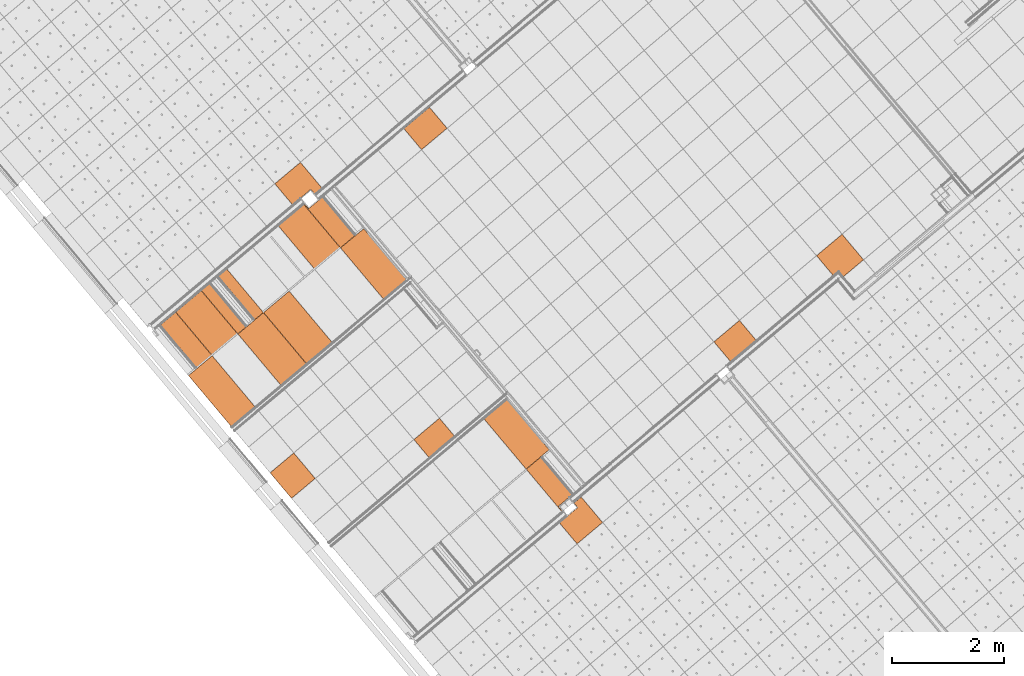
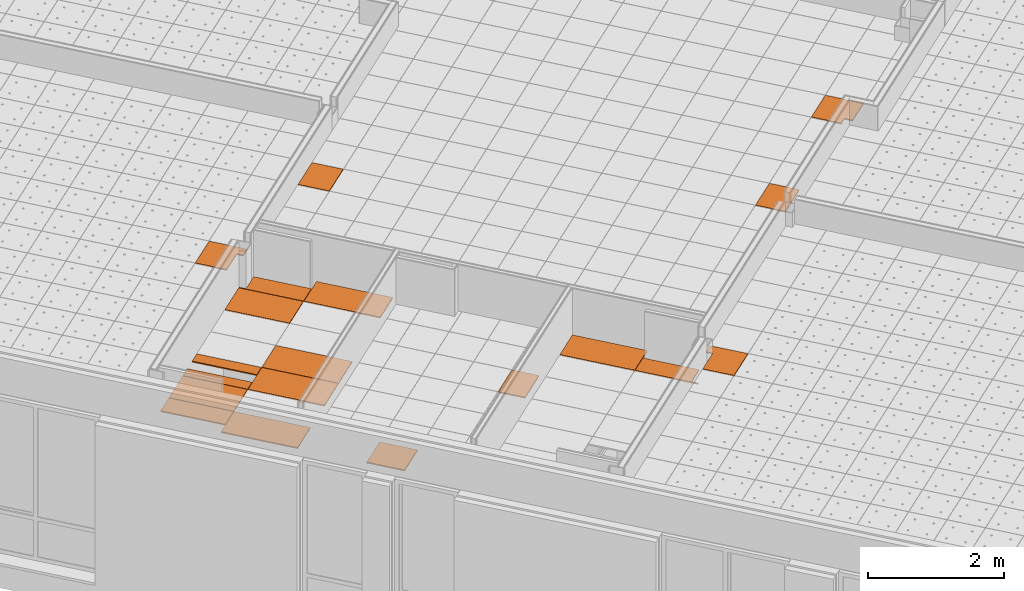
# One storey, part 312 of 338: 19 proxies, 6 elements without a shape of their own.
"""IFC2X3 building model written with IfcOpenShell, lengths in millimetres."""

import ifcopenshell
import ifcopenshell.guid

model = None  # the IFC model being written
_history = None  # IfcOwnerHistory: only IFC2X3 demands one
_inside = {}  # id of a spatial element -> (the spatial element, [elements in it])
_under = {}  # id of a project, library or spatial element -> (it, [spatial elements below it])
_declared = {}  # id of a project -> (the project, [libraries it declares])
_typed = {}  # id of a type object -> (the type object, [elements of that type])
_made_of = {}  # id of a material, layer set ... -> (it, [elements and type objects made of it])


def new_model(schema):
    """Start an empty IFC model of exactly this schema.

    Asked for "IFC4X3", IfcOpenShell would pick the latest addendum, in which some entities
    have other attributes; the version numbers below select the first issue.
    IFC2X3 requires an IfcOwnerHistory on every rooted entity: one is made here for all.
    """
    global model, _history
    if schema == "IFC4X3":
        model = ifcopenshell.file(schema_version=(4, 3, 0, 0))
    else:
        model = ifcopenshell.file(schema=schema)
    _inside.clear()
    _under.clear()
    _declared.clear()
    _typed.clear()
    _made_of.clear()
    _history = None
    if model.schema == "IFC2X3":
        org = make("IfcOrganization", Name="unknown")
        user = make(
            "IfcPersonAndOrganization",
            ThePerson=make("IfcPerson", FamilyName="unknown"),
            TheOrganization=org,
        )
        app = make(
            "IfcApplication",
            ApplicationDeveloper=org,
            Version="unknown",
            ApplicationFullName="unknown",
            ApplicationIdentifier="unknown",
        )
        _history = make(
            "IfcOwnerHistory",
            OwningUser=user,
            OwningApplication=app,
            ChangeAction="ADDED",
            CreationDate=0,
        )
    return model


def make(cls, **values):
    """One entity of the class cls with the attributes given. An attribute that is None is left unset."""
    return model.create_entity(
        cls, **{name: value for name, value in values.items() if value is not None}
    )


def entity(cls, *values):
    """Any entity or typed value of the class cls, its attributes in the order of the schema. None: left unset."""
    e = model.create_entity(cls)
    for i, value in enumerate(values):
        if value is not None:
            e[i] = value
    return e


def rooted(cls, **values):
    """An entity with a GlobalId (a new one), such as an element, a storey or a relation."""
    return make(cls, GlobalId=ifcopenshell.guid.new(), OwnerHistory=_history, **values)


def si_unit(unit_type, name, prefix=None):
    """IfcSIUnit, for example si_unit("LENGTHUNIT", "METRE", prefix="MILLI")."""
    return make("IfcSIUnit", UnitType=unit_type, Prefix=prefix, Name=name)


def converted_unit(unit_type, name, factor, base, dimensions=None, offset=None):
    """IfcConversionBasedUnit, such as the inch: factor (a typed value) times the base unit."""
    return make(
        "IfcConversionBasedUnit"
        if offset is None
        else "IfcConversionBasedUnitWithOffset",
        ConversionOffset=offset,
        Dimensions=None
        if dimensions is None
        else entity("IfcDimensionalExponents", *dimensions),
        UnitType=unit_type,
        Name=name,
        ConversionFactor=make(
            "IfcMeasureWithUnit", ValueComponent=factor, UnitComponent=base
        ),
    )


def derived_unit(unit_type, elements):
    """IfcDerivedUnit: a product of units, each with its exponent."""
    return make(
        "IfcDerivedUnit",
        Elements=[
            make("IfcDerivedUnitElement", Unit=unit, Exponent=power)
            for unit, power in elements
        ],
        UnitType=unit_type,
    )


def money_unit(currency):
    """IfcMonetaryUnit."""
    return make("IfcMonetaryUnit", Currency=currency)


def assignment(units):
    """IfcUnitAssignment: the units of a project."""
    return None if units is None else make("IfcUnitAssignment", Units=units)


def point(xyz):
    """IfcCartesianPoint."""
    return None if xyz is None else make("IfcCartesianPoint", Coordinates=xyz)


def direction(xyz):
    """IfcDirection."""
    return None if xyz is None else make("IfcDirection", DirectionRatios=xyz)


def frame(location, z_axis=None, x_axis=None):
    """IfcAxis2Placement3D, a coordinate frame: its origin and axes. An axis left out is left unset."""
    return make(
        "IfcAxis2Placement3D",
        Location=point(location),
        Axis=direction(z_axis),
        RefDirection=direction(x_axis),
    )


def origin_with_axes():
    """The frame at (0, 0, 0) with the z axis (0, 0, 1) and the x axis (1, 0, 0) written out."""
    return frame((0.0, 0.0, 0.0), z_axis=(0.0, 0.0, 1.0), x_axis=(1.0, 0.0, 0.0))


def place(relative_to, where):
    """IfcLocalPlacement: puts the frame where relative to a parent placement (None: the world)."""
    return make(
        "IfcLocalPlacement", PlacementRelTo=relative_to, RelativePlacement=where
    )


def context(
    kind, dimensions, precision=None, world=None, true_north=None, identifier=None
):
    """IfcGeometricRepresentationContext, for example the 3D "Model" context."""
    return make(
        "IfcGeometricRepresentationContext",
        ContextIdentifier=identifier,
        ContextType=kind,
        CoordinateSpaceDimension=dimensions,
        Precision=precision,
        WorldCoordinateSystem=world,
        TrueNorth=true_north,
    )


def subcontext(parent, identifier, kind, view, scale=None):
    """IfcGeometricRepresentationSubContext, for example "Body" below "Model"."""
    return make(
        "IfcGeometricRepresentationSubContext",
        ContextIdentifier=identifier,
        ContextType=kind,
        ParentContext=parent,
        TargetScale=scale,
        TargetView=view,
    )


def project(units=None, contexts=None):
    """IfcProject with its units and contexts."""
    return rooted(
        "IfcProject",
        Name="project",
        RepresentationContexts=contexts,
        UnitsInContext=assignment(units),
    )


def spatial(cls, under=None, at=None, **own):
    """A site, building, storey or space (cls), placed at a placement, below another one or the project."""
    s = rooted(cls, ObjectPlacement=at, **own)
    if under is not None:
        _under.setdefault(under.id(), (under, []))[1].append(s)
    return s


def faces_of(points, faces, orient=None, outer=None):
    """IfcFace entities. A face is a list of loops; a loop is a list of indices into points, from 0.

    orient and outer hold one flag for each loop. By default every Orientation is true, the
    first loop of a face is its IfcFaceOuterBound and the others are IfcFaceBound.
    """
    made = []
    for i, loops in enumerate(faces):
        bounds = []
        for j, loop in enumerate(loops):
            is_outer = j == 0 if outer is None else outer[i][j]
            bounds.append(
                make(
                    "IfcFaceOuterBound" if is_outer else "IfcFaceBound",
                    Bound=make("IfcPolyLoop", Polygon=[points[k] for k in loop]),
                    Orientation=True if orient is None else orient[i][j],
                )
            )
        made.append(make("IfcFace", Bounds=bounds))
    return made


def faceted_brep(points, faces, orient=None, outer=None, voids=None):
    """IfcFacetedBrep: a solid bounded by flat faces; with voids (closed shells), ...WithVoids."""
    shared = [point(p) for p in points]
    hull = make("IfcClosedShell", CfsFaces=faces_of(shared, faces, orient, outer))
    if voids is None:
        return make("IfcFacetedBrep", Outer=hull)
    return make(
        "IfcFacetedBrepWithVoids",
        Outer=hull,
        Voids=[
            make(cls, CfsFaces=faces_of(shared, fs, o, b)) for cls, fs, o, b in voids
        ],
    )


def shape(context_of_items, identifier, shape_type, items):
    """IfcShapeRepresentation: the items that make up one representation, for example the "Body"."""
    return make(
        "IfcShapeRepresentation",
        ContextOfItems=context_of_items,
        RepresentationIdentifier=identifier,
        RepresentationType=shape_type,
        Items=items,
    )


def material(Name=None, Category=None):
    """IfcMaterial."""
    return make("IfcMaterial", Name=Name, Category=Category)


def made_of(thing, what):
    """Note that an element or type object is made of a material, layer set ...; save() writes the relation."""
    if what is not None:
        _made_of.setdefault(what.id(), (what, []))[1].append(thing)
    return thing


def type_object(cls, material=None, **own):
    """A type object (cls), such as IfcWallType, which elements share."""
    return made_of(rooted(cls, **own), material)


def element(
    cls,
    number,
    at=None,
    inside=None,
    cuts=None,
    type_object=None,
    material=None,
    context=None,
    identifier="Body",
    shape_type=None,
    held_by="IfcProductDefinitionShape",
    body=None,
    shapes=None,
    **own,
):
    """One element of the class cls, such as IfcWall. Its Tag is "e" and its number.

    at: its placement. inside: the storey or other place that contains it. cuts: it is an
    opening in that element (IfcRelVoidsElement). A single representation is given by context,
    identifier, shape_type and body (its items); several are given by shapes. held_by: the class
    of the entity that holds the representations. save() writes the other relations.
    """
    e = rooted(cls, Tag="e%d" % number, ObjectPlacement=at, **own)
    if body is not None:
        shapes = [shape(context, identifier, shape_type, body)]
    if shapes is not None:
        e.Representation = make(held_by, Representations=shapes)
    if inside is not None:
        _inside.setdefault(inside.id(), (inside, []))[1].append(e)
    if cuts is not None:
        rooted(
            "IfcRelVoidsElement", RelatingBuildingElement=cuts, RelatedOpeningElement=e
        )
    if type_object is not None:
        _typed.setdefault(type_object.id(), (type_object, []))[1].append(e)
    return made_of(e, material)


def aggregate(whole, parts):
    """IfcRelAggregates: a whole, such as a stair, and the parts it consists of."""
    return rooted("IfcRelAggregates", RelatingObject=whole, RelatedObjects=parts)


def save(model, path):
    """Write the relations noted so far, then the file.

    IfcRelAggregates (storeys below a building ...), IfcRelContainedInSpatialStructure (elements
    in a storey), IfcRelDefinesByType, IfcRelAssociatesMaterial and IfcRelDeclares: one each for
    every whole, place, type object, material and project.
    """
    for whole, parts in _under.values():
        aggregate(whole, parts)
    for where, things in _inside.values():
        rooted(
            "IfcRelContainedInSpatialStructure",
            RelatedElements=things,
            RelatingStructure=where,
        )
    for kind, things in _typed.values():
        rooted("IfcRelDefinesByType", RelatedObjects=things, RelatingType=kind)
    for what, things in _made_of.values():
        rooted("IfcRelAssociatesMaterial", RelatedObjects=things, RelatingMaterial=what)
    for by, libraries in _declared.values():
        rooted("IfcRelDeclares", RelatingContext=by, RelatedDefinitions=libraries)
    model.write(path)


model = new_model("IFC2X3")

# Units and contexts
model_context = context("Model", 3, precision=0.01, world=origin_with_axes(), true_north=direction((0.0, 1.0)))
plan_context = context("Plan", 3, precision=0.01, world=origin_with_axes(), true_north=direction((0.0, 1.0)))
body_context = subcontext(model_context, "Body", "Model", "MODEL_VIEW")
ifc_project = project(units=[si_unit("LENGTHUNIT", "METRE", prefix="MILLI"), si_unit("AREAUNIT", "SQUARE_METRE"), si_unit("VOLUMEUNIT", "CUBIC_METRE"), converted_unit("PLANEANGLEUNIT", "DEGREE", entity("IfcPlaneAngleMeasure", 0.0174532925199), si_unit("PLANEANGLEUNIT", "RADIAN"), dimensions=[0, 0, 0, 0, 0, 0, 0]), money_unit("EUR"), converted_unit("TIMEUNIT", "Year", entity("IfcTimeMeasure", 31556926.0), si_unit("TIMEUNIT", "SECOND"), dimensions=[0, 0, 1, 0, 0, 0, 0]), si_unit("MASSUNIT", "GRAM", prefix="KILO"), si_unit("THERMODYNAMICTEMPERATUREUNIT", "DEGREE_CELSIUS"), si_unit("LUMINOUSINTENSITYUNIT", "LUMEN"), si_unit("ENERGYUNIT", "JOULE", prefix="MEGA"), derived_unit("THERMALCONDUCTANCEUNIT", [(si_unit("POWERUNIT", "WATT"), 1), (si_unit("LENGTHUNIT", "METRE"), -1), (si_unit("THERMODYNAMICTEMPERATUREUNIT", "KELVIN"), -1)]), derived_unit("SPECIFICHEATCAPACITYUNIT", [(si_unit("ENERGYUNIT", "JOULE"), 1), (si_unit("MASSUNIT", "GRAM", prefix="KILO"), -1), (si_unit("THERMODYNAMICTEMPERATUREUNIT", "KELVIN"), -1)]), derived_unit("MASSDENSITYUNIT", [(si_unit("MASSUNIT", "GRAM", prefix="KILO"), 1), (si_unit("VOLUMEUNIT", "CUBIC_METRE"), -1)])], contexts=[model_context, plan_context])

# Site, building, storey
site_placement = place(None, origin_with_axes())
site = spatial("IfcSite", under=ifc_project, at=site_placement, Name="Fortuinstraat Woensdrecht", CompositionType="ELEMENT")
building_placement = place(site_placement, origin_with_axes())
building = spatial("IfcBuilding", under=site, at=building_placement, Name="IKC Fortuna", CompositionType="ELEMENT")
storey_placement = place(building_placement, origin_with_axes())
storey = spatial("IfcBuildingStorey", under=building, at=storey_placement, Name="00 begane grond", CompositionType="ELEMENT", Elevation=0.0)

# Covering, proxies
covering_type = type_object("IfcCoveringType", Name="Curtain Wall Type", PredefinedType="CEILING")
covering_1_placement = place(storey_placement, frame((17937.1227498, -4186.27868692, 4660.0), z_axis=(0.0, 0.0, 1.0), x_axis=(1.0, 0.0, 0.0)))
covering_1 = element("IfcCovering", 1, at=covering_1_placement, inside=storey, type_object=covering_type, Name="45_Plafondafwerking_P02", PredefinedType="CEILING")
ifc_material = material(Name="Gipsplaat")
building_element_proxy_type_1 = type_object("IfcBuildingElementProxyType", Name="Distinct Panel 600 x 495 x 20", PredefinedType="NOTDEFINED")
proxy_1_placement = place(covering_1_placement, frame((-8181.34846103, 2282.67428428, 2.18491891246e-10), z_axis=(0.0, 0.0, 1.0), x_axis=(1.0, 0.0, 0.0)))
proxy_1 = element("IfcBuildingElementProxy", 2, at=proxy_1_placement, type_object=building_element_proxy_type_1, material=ifc_material, Name="__Panel-D", context=body_context, shape_type="Brep", body=[
    faceted_brep([(70.3275065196, 379.014680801, -10.0), (-385.468925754, -3.44394843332, -10.0), (-385.468925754, -3.44394843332, 9.99999999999), (70.3275065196, 379.014680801, 9.99999999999), (385.468892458, 3.44401273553, -10.0), (-70.3274819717, -379.014732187, -10.0), (-70.3274819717, -379.014732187, 9.99999999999), (385.468892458, 3.44401273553, 9.99999999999)], [[[0, 1, 2, 3]], [[0, 4, 5, 1]], [[1, 5, 6, 2]], [[3, 2, 6, 7]], [[4, 0, 3, 7]], [[5, 4, 7, 6]]]),
])
building_element_proxy_type_2 = type_object("IfcBuildingElementProxyType", Name="Distinct Panel 600 x 470 x 20", PredefinedType="NOTDEFINED")
proxy_2_placement = place(covering_1_placement, frame((-762.454886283, -113.319990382, 0.0), z_axis=(0.0, 0.0, 1.0), x_axis=(1.0, 0.0, 0.0)))
proxy_2 = element("IfcBuildingElementProxy", 3, at=proxy_2_placement, type_object=building_element_proxy_type_2, material=ifc_material, Name="__Panel-D", context=body_context, shape_type="Brep", body=[
    faceted_brep([(43.902049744, 499.051159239, -10.0), (-411.894293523, 116.592422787, -10.0), (-411.894293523, 116.592422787, 9.99999999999), (43.902049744, 499.051159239, 9.99999999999), (426.360798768, 43.2548159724, -10.0), (69.5797071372, -256.120217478, -10.0), (-14.15834367, -156.32514941, -10.0), (-113.173607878, -239.408852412, -10.0), (-113.173607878, -239.408852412, 9.99999999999), (-14.15834367, -156.32514941, 9.99999999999), (69.5797071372, -256.120217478, 9.99999999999), (426.360798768, 43.2548159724, 9.99999999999)], [[[0, 1, 2, 3]], [[0, 4, 5, 6, 7, 1]], [[1, 7, 8, 2]], [[3, 2, 8, 9, 10, 11]], [[4, 0, 3, 11]], [[5, 4, 11, 10]], [[6, 5, 10, 9]], [[7, 6, 9, 8]]]),
])
proxy_3_placement = place(covering_1_placement, frame((-2635.59693759, -1526.18956891, 1.58983937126e-10), z_axis=(0.0, 0.0, 1.0), x_axis=(1.0, 0.0, 0.0)))
proxy_3 = element("IfcBuildingElementProxy", 4, at=proxy_3_placement, type_object=building_element_proxy_type_2, material=ifc_material, Name="__Panel-D", context=body_context, shape_type="Brep", body=[
    faceted_brep([(78.5378299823, 369.230019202, -10.0), (-377.258515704, -13.228729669, -10.0), (-377.258515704, -13.228729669, 9.99999999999), (78.5378299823, 369.230019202, 9.99999999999), (377.258531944, 13.2287273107, -10.0), (-78.537836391, -369.230010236, -10.0), (-78.537836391, -369.230010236, 9.99999999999), (377.258531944, 13.2287273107, 9.99999999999)], [[[0, 1, 2, 3]], [[0, 4, 5, 1]], [[1, 5, 6, 2]], [[3, 2, 6, 7]], [[4, 0, 3, 7]], [[5, 4, 7, 6]]]),
])
aggregate(covering_1, [proxy_1, proxy_2, proxy_3])

covering_2_placement = place(storey_placement, frame((12053.0472686, -8408.71417201, 4260.0), z_axis=(0.0, 0.0, 1.0), x_axis=(1.0, 0.0, 0.0)))
covering_2 = element("IfcCovering", 5, at=covering_2_placement, inside=storey, type_object=covering_type, Name="45_Plafondafwerking_P02a", PredefinedType="CEILING")
building_element_proxy_type_3 = type_object("IfcBuildingElementProxyType", Name="Distinct Panel 322 x 883 x 20", PredefinedType="NOTDEFINED")
proxy_4_placement = place(covering_2_placement, frame((0.0, 0.0, 1.20792265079e-10), z_axis=(0.0, 0.0, 1.0), x_axis=(1.0, 0.0, 0.0)))
proxy_4 = element("IfcBuildingElementProxy", 6, at=proxy_4_placement, type_object=building_element_proxy_type_3, material=ifc_material, Name="__Panel-D", context=body_context, shape_type="Brep", body=[
    faceted_brep([(-232.129216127, 617.840953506, -10.0), (-232.129216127, 617.840953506, 10.0), (331.920121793, -54.3666697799, 10.0), (331.920121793, -54.3666697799, -10.0), (-491.041399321, 400.587763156, -10.0), (-491.041399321, 400.587763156, 10.0), (143.714789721, -355.884970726, 10.0), (155.599133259, -345.912794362, 10.0), (84.8923988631, -261.648004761, 10.0), (84.8923988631, -261.648004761, -10.0), (155.599133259, -345.912794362, -10.0), (143.714789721, -355.884970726, -10.0)], [[[0, 1, 2, 3]], [[4, 5, 1, 0]], [[1, 5, 6, 7, 8, 2]], [[3, 2, 8, 9]], [[0, 3, 9, 10, 11, 4]], [[11, 6, 5, 4]], [[10, 7, 6, 11]], [[9, 8, 7, 10]]]),
])
building_element_proxy_type_4 = type_object("IfcBuildingElementProxyType", Name="Distinct Panel 200 x 1175 x 20", PredefinedType="NOTDEFINED")
proxy_5_placement = place(covering_2_placement, frame((-577.743528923, 944.638631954, 1.26121335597e-10), z_axis=(0.0, 0.0, 1.0), x_axis=(1.0, 0.0, 0.0)))
proxy_5 = element("IfcBuildingElementProxy", 7, at=proxy_5_placement, type_object=building_element_proxy_type_4, material=ifc_material, Name="__Panel-D", context=body_context, shape_type="Brep", body=[
    faceted_brep([(-256.449430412, 701.85845381, -10.0), (-256.449430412, 701.85845381, 9.99999999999), (495.609245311, -194.409899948, 9.99999999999), (495.609245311, -194.409899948, -10.0), (-668.570476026, 356.047698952, -10.0), (-668.570476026, 356.047698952, 9.99999999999), (83.4881996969, -540.220636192, 9.99999999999), (344.315491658, -321.360484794, 9.99999999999), (344.315491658, -321.360484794, -10.0), (83.4881996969, -540.220636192, -10.0)], [[[0, 1, 2, 3]], [[4, 5, 1, 0]], [[1, 5, 6, 7, 2]], [[3, 2, 7, 8]], [[0, 3, 8, 9, 4]], [[9, 6, 5, 4]], [[8, 7, 6, 9]]]),
])
aggregate(covering_2, [proxy_4, proxy_5])

covering_3_placement = place(storey_placement, frame((6017.19720753, -6528.82230411, 4260.0), z_axis=(0.0, 0.0, 1.0), x_axis=(1.0, 0.0, 0.0)))
covering_3 = element("IfcCovering", 8, at=covering_3_placement, inside=storey, type_object=covering_type, Name="45_Plafondafwerking_P02a", PredefinedType="CEILING")
building_element_proxy_type_5 = type_object("IfcBuildingElementProxyType", Name="Distinct Panel 557 x 1200 x 20", PredefinedType="NOTDEFINED")
proxy_6_placement = place(covering_3_placement, origin_with_axes())
proxy_6 = element("IfcBuildingElementProxy", 9, at=proxy_6_placement, type_object=building_element_proxy_type_5, material=ifc_material, Name="__Panel-D", context=body_context, shape_type="Brep", body=[
    faceted_brep([(-83.460676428, 553.256007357, -10.0), (-83.460676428, 553.256007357, 9.99999999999), (684.616210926, -362.102116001, 9.99999999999), (684.616210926, -362.102116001, -10.0), (-355.012459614, 325.39690804, -10.0), (-355.012459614, 325.39690804, 9.99999999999), (-506.306489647, 198.446108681, 9.99999999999), (261.770397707, -716.911995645, 9.99999999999), (261.770397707, -716.911995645, -10.0), (-506.306489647, 198.446108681, -10.0)], [[[0, 1, 2, 3]], [[4, 5, 1, 0]], [[1, 5, 6, 7, 2]], [[3, 2, 7, 8]], [[0, 3, 8, 9, 4]], [[9, 6, 5, 4]], [[8, 7, 6, 9]]]),
])
building_element_proxy_type_6 = type_object("IfcBuildingElementProxyType", Name="Distinct Panel 600 x 1200 x 20", PredefinedType="NOTDEFINED")
proxy_7_placement = place(covering_3_placement, frame((862.662041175, 828.284831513, 0.0), z_axis=(0.0, 0.0, 1.0), x_axis=(1.0, 0.0, 0.0)))
proxy_7 = element("IfcBuildingElementProxy", 10, at=proxy_7_placement, type_object=building_element_proxy_type_6, material=ifc_material, Name="__Panel-D", context=body_context, shape_type="Brep", body=[
    faceted_brep([(-26.8694973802, 496.316404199, -10.0), (-26.8694973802, 496.316404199, 9.99999999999), (741.207404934, -419.04170837, 9.99999999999), (741.207404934, -419.04170837, -10.0), (-180.330115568, 367.547635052, -10.0), (-180.330115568, 367.547635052, 9.99999999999), (-333.538973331, 238.990105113, 9.99999999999), (-482.665901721, 113.857726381, 9.99999999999), (285.411020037, -801.500386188, 9.99999999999), (285.411020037, -801.500386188, -10.0), (-482.665901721, 113.857726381, -10.0), (-333.538973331, 238.990105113, -10.0)], [[[0, 1, 2, 3]], [[4, 5, 1, 0]], [[1, 5, 6, 7, 8, 2]], [[3, 2, 8, 9]], [[0, 3, 9, 10, 11, 4]], [[11, 6, 5, 4]], [[10, 7, 6, 11]], [[9, 8, 7, 10]]]),
])
proxy_8_placement = place(covering_3_placement, frame((1451.55940556, 1061.36547665, 0.0), z_axis=(0.0, 0.0, 1.0), x_axis=(1.0, 0.0, 0.0)))
proxy_8 = element("IfcBuildingElementProxy", 11, at=proxy_8_placement, type_object=building_element_proxy_type_6, material=ifc_material, Name="__Panel-D", context=body_context, shape_type="Brep", body=[
    faceted_brep([(-156.140272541, 648.908421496, -10.0), (-156.140272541, 648.908421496, 9.99999999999), (611.936654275, -266.449718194, 9.99999999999), (611.936654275, -266.449718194, -10.0), (-611.936649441, 266.449718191, -10.0), (-611.936649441, 266.449718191, 9.99999999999), (156.140257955, -648.908402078, 9.99999999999), (156.140257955, -648.908402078, -10.0)], [[[0, 1, 2, 3]], [[4, 5, 1, 0]], [[1, 5, 6, 2]], [[3, 2, 6, 7]], [[0, 3, 7, 4]], [[7, 6, 5, 4]]]),
])
building_element_proxy_type_7 = type_object("IfcBuildingElementProxyType", Name="Distinct Panel 343 x 908 x 20", PredefinedType="NOTDEFINED")
proxy_9_placement = place(covering_3_placement, frame((1895.0878058, 3054.35601441, 1.1812772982e-10), z_axis=(0.0, 0.0, 1.0), x_axis=(1.0, 0.0, 0.0)))
proxy_9 = element("IfcBuildingElementProxy", 12, at=proxy_9_placement, type_object=building_element_proxy_type_7, material=ifc_material, Name="__Panel-D", context=body_context, shape_type="Brep", body=[
    faceted_brep([(-1.00294317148, 342.915538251, -10.0), (-1.00294317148, 342.915538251, 10.0), (579.113015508, -348.43952088, 10.0), (579.113015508, -348.43952088, -10.0), (-248.799075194, 134.989825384, -10.0), (-248.799075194, 134.989825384, 10.0), (-319.506040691, 219.255079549, 10.0), (-330.622081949, 209.927616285, 10.0), (320.200842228, -565.69268335, 10.0), (320.200842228, -565.69268335, -10.0), (-330.622081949, 209.927616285, -10.0), (-319.506040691, 219.255079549, -10.0)], [[[0, 1, 2, 3]], [[4, 5, 1, 0]], [[1, 5, 6, 7, 8, 2]], [[3, 2, 8, 9]], [[0, 3, 9, 10, 11, 4]], [[11, 6, 5, 4]], [[10, 7, 6, 11]], [[9, 8, 7, 10]]]),
])
building_element_proxy_type_8 = type_object("IfcBuildingElementProxyType", Name="Distinct Panel 600 x 1018 x 20", PredefinedType="NOTDEFINED")
proxy_10_placement = place(covering_3_placement, frame((1658.14877288, 2682.03018428, 1.04805053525e-10), z_axis=(0.0, 0.0, 1.0), x_axis=(1.0, 0.0, 0.0)))
proxy_10 = element("IfcBuildingElementProxy", 13, at=proxy_10_placement, type_object=building_element_proxy_type_8, material=ifc_material, Name="__Panel-D", context=body_context, shape_type="Brep", body=[
    faceted_brep([(-97.5132565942, 579.039503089, -10.0), (-97.5132565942, 579.039503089, 9.99999999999), (553.309647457, -196.580814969, 9.99999999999), (553.309647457, -196.580814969, -10.0), (-553.309640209, 196.580782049, -10.0), (-553.309640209, 196.580782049, 9.99999999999), (97.5132465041, -579.039483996, 9.99999999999), (97.5132465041, -579.039483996, -10.0)], [[[0, 1, 2, 3]], [[4, 5, 1, 0]], [[1, 5, 6, 2]], [[3, 2, 6, 7]], [[0, 3, 7, 4]], [[7, 6, 5, 4]]]),
])
proxy_11_placement = place(covering_3_placement, frame((-180.357632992, 1139.33961403, 0.0), z_axis=(0.0, 0.0, 1.0), x_axis=(1.0, 0.0, 0.0)))
proxy_11 = element("IfcBuildingElementProxy", 14, at=proxy_11_placement, type_object=building_element_proxy_type_8, material=ifc_material, Name="__Panel-D", context=body_context, shape_type="Brep", body=[
    faceted_brep([(-97.5131985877, 579.039426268, -10.0), (-97.5131985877, 579.039426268, 9.99999999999), (553.309629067, -196.580769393, 9.99999999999), (553.309629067, -196.580769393, -10.0), (-553.309662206, 196.580809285, -10.0), (-553.309662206, 196.580809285, 9.99999999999), (97.5132521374, -579.039473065, 9.99999999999), (97.5132521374, -579.039473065, -10.0)], [[[0, 1, 2, 3]], [[4, 5, 1, 0]], [[1, 5, 6, 2]], [[3, 2, 6, 7]], [[0, 3, 7, 4]], [[7, 6, 5, 4]]]),
])
building_element_proxy_type_9 = type_object("IfcBuildingElementProxyType", Name="Distinct Panel 203 x 1018 x 20", PredefinedType="NOTDEFINED")
proxy_12_placement = place(covering_3_placement, frame((431.394487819, 1652.66067272, 0.0), z_axis=(0.0, 0.0, 1.0), x_axis=(1.0, 0.0, 0.0)))
proxy_12 = element("IfcBuildingElementProxy", 15, at=proxy_12_placement, type_object=building_element_proxy_type_9, material=ifc_material, Name="__Panel-D", context=body_context, shape_type="Brep", body=[
    faceted_brep([(-249.638666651, 451.390947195, -10.0), (-249.638666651, 451.390947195, 9.99999999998), (401.184102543, -324.229185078, 9.99999999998), (401.184102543, -324.229185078, -10.0), (-401.184042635, 324.229248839, -10.0), (-401.184042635, 324.229248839, 9.99999999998), (249.638604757, -451.391005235, 9.99999999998), (249.638604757, -451.391005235, -10.0)], [[[0, 1, 2, 3]], [[4, 5, 1, 0]], [[1, 5, 6, 2]], [[3, 2, 6, 7]], [[0, 3, 7, 4]], [[7, 6, 5, 4]]]),
])
building_element_proxy_type_10 = type_object("IfcBuildingElementProxyType", Name="Distinct Panel 357 x 1018 x 20", PredefinedType="NOTDEFINED")
proxy_13_placement = place(covering_3_placement, frame((-546.904408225, 831.770297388, 0.0), z_axis=(0.0, 0.0, 1.0), x_axis=(1.0, 0.0, 0.0)))
proxy_13 = element("IfcBuildingElementProxy", 16, at=proxy_13_placement, type_object=building_element_proxy_type_10, material=ifc_material, Name="__Panel-D", context=body_context, shape_type="Brep", body=[
    faceted_brep([(-190.593113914, 500.936189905, -10.0), (-190.593113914, 500.936189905, 9.99999999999), (460.229791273, -274.684081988, 9.99999999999), (460.229791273, -274.684081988, -10.0), (-460.229808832, 274.684078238, -10.0), (-460.229808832, 274.684078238, 9.99999999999), (190.593111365, -500.936193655, 9.99999999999), (190.593111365, -500.936193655, -10.0)], [[[0, 1, 2, 3]], [[4, 5, 1, 0]], [[1, 5, 6, 2]], [[3, 2, 6, 7]], [[0, 3, 7, 4]], [[7, 6, 5, 4]]]),
])
building_element_proxy_type_11 = type_object("IfcBuildingElementProxyType", Name="Distinct Panel 543 x 1198 x 20", PredefinedType="NOTDEFINED")
proxy_14_placement = place(covering_3_placement, frame((2698.68286476, 2368.12977499, 1.24344978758e-10), z_axis=(0.0, 0.0, 1.0), x_axis=(1.0, 0.0, 0.0)))
proxy_14 = element("IfcBuildingElementProxy", 17, at=proxy_14_placement, type_object=building_element_proxy_type_11, material=ifc_material, Name="__Panel-D", context=body_context, shape_type="Brep", body=[
    faceted_brep([(-66.9366467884, 461.176217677, -10.0), (-66.9366467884, 461.176217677, 9.99999999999), (700.01764976, -452.84405265, 9.99999999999), (700.01764976, -452.84405265, -10.0), (-220.14553122, 332.618652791, -10.0), (-220.14553122, 332.618652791, 9.99999999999), (-221.268116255, 333.95651261, 9.99999999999), (-480.180294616, 116.703323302, 9.99999999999), (287.896624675, -798.654787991, 9.99999999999), (287.896624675, -798.654787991, -10.0), (-480.180294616, 116.703323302, -10.0), (-221.268116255, 333.95651261, -10.0)], [[[0, 1, 2, 3]], [[4, 5, 1, 0]], [[1, 5, 6, 7, 8, 2]], [[3, 2, 8, 9]], [[0, 3, 9, 10, 11, 4]], [[11, 6, 5, 4]], [[10, 7, 6, 11]], [[9, 8, 7, 10]]]),
])
building_element_proxy_type_12 = type_object("IfcBuildingElementProxyType", Name="Distinct Panel 197 x 1018 x 20", PredefinedType="NOTDEFINED")
proxy_15_placement = place(covering_3_placement, frame((124.976737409, 1395.54559141, 0.0), z_axis=(0.0, 0.0, 1.0), x_axis=(1.0, 0.0, 0.0)))
proxy_15 = element("IfcBuildingElementProxy", 18, at=proxy_15_placement, type_object=building_element_proxy_type_12, material=ifc_material, Name="__Panel-D", context=body_context, shape_type="Brep", body=[
    faceted_brep([(-251.805407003, 449.5728363, -10.0), (-251.805407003, 449.5728363, 10.0), (399.017290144, -326.047387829, 10.0), (399.017290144, -326.047387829, -10.0), (-399.017336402, 326.047382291, -10.0), (-399.017336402, 326.047382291, 10.0), (251.805482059, -449.57281488, 10.0), (251.805482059, -449.57281488, -10.0)], [[[0, 1, 2, 3]], [[4, 5, 1, 0]], [[1, 5, 6, 2]], [[3, 2, 6, 7]], [[0, 3, 7, 4]], [[7, 6, 5, 4]]]),
])
aggregate(covering_3, [proxy_6, proxy_7, proxy_9, proxy_10, proxy_12, proxy_11, proxy_13, proxy_14, proxy_8, proxy_15])

# Covering, proxy
covering_4_placement = place(storey_placement, frame((9775.85169731, -1002.28242867, 4660.0), z_axis=(0.0, 0.0, 1.0), x_axis=(1.0, 0.0, 0.0)))
covering_4 = element("IfcCovering", 19, at=covering_4_placement, inside=storey, type_object=covering_type, Name="45_Plafondafwerking_P01", PredefinedType="CEILING")
building_element_proxy_type_13 = type_object("IfcBuildingElementProxyType", Name="600 x 495 x 20", PredefinedType="NOTDEFINED")
proxy_16_placement = place(covering_4_placement, frame((-2223.89916066, -1950.96514716, 1.16351372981e-10), z_axis=(0.0, 0.0, 1.0), x_axis=(1.0, 0.0, 0.0)))
proxy_16 = element("IfcBuildingElementProxy", 20, at=proxy_16_placement, type_object=building_element_proxy_type_13, material=ifc_material, Name="__600x716 Rockfon Krios", context=body_context, shape_type="Brep", body=[
    faceted_brep([(-37.564887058, 441.72929291, -10.0), (-493.361233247, 59.2705560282, -10.0), (-493.361233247, 59.2705560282, 9.99999999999), (-37.564887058, 441.72929291, 9.99999999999), (344.893887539, -14.0670909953, -10.0), (216.209550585, -122.046124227, -10.0), (148.77550439, -41.6813915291, -10.0), (-178.336504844, -316.161095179, -10.0), (-178.336504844, -316.161095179, 9.99999999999), (148.77550439, -41.6813915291, 9.99999999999), (216.209550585, -122.046124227, 9.99999999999), (344.893887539, -14.0670909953, 9.99999999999)], [[[0, 1, 2, 3]], [[0, 4, 5, 6, 7, 1]], [[1, 7, 8, 2]], [[3, 2, 8, 9, 10, 11]], [[4, 0, 3, 11]], [[5, 4, 11, 10]], [[6, 5, 10, 9]], [[7, 6, 9, 8]]]),
])
aggregate(covering_4, [proxy_16])

# Covering, proxies
covering_5_placement = place(storey_placement, frame((6990.12644751, -7663.89158706, 4260.0), z_axis=(0.0, 0.0, 1.0), x_axis=(1.0, 0.0, 0.0)))
covering_5 = element("IfcCovering", 21, at=covering_5_placement, inside=storey, type_object=covering_type, Name="45_Plafondafwerking_P02", PredefinedType="CEILING")
building_element_proxy_type_14 = type_object("IfcBuildingElementProxyType", Name="Distinct Panel 557 x 600 x 20", PredefinedType="NOTDEFINED")
proxy_17_placement = place(covering_5_placement, frame((385.672682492, -459.626567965, 1.25233157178e-10), z_axis=(0.0, 0.0, 1.0), x_axis=(1.0, 0.0, 0.0)))
proxy_17 = element("IfcBuildingElementProxy", 22, at=proxy_17_placement, type_object=building_element_proxy_type_14, material=ifc_material, Name="__Panel-D", context=body_context, shape_type="Brep", body=[
    faceted_brep([(20.1933478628, 405.302989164, -10.0), (-402.652075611, 50.4933617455, -10.0), (-402.652075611, 50.4933617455, 9.99999999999), (20.1933478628, 405.302989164, 9.99999999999), (402.65207215, -50.4933651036, -10.0), (-20.1933391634, -405.302968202, -10.0), (-20.1933391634, -405.302968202, 9.99999999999), (402.65207215, -50.4933651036, 9.99999999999)], [[[0, 1, 2, 3]], [[0, 4, 5, 1]], [[1, 5, 6, 2]], [[3, 2, 6, 7]], [[4, 0, 3, 7]], [[5, 4, 7, 6]]]),
])
building_element_proxy_type_15 = type_object("IfcBuildingElementProxyType", Name="Distinct Panel 600 x 425 x 20", PredefinedType="NOTDEFINED")
proxy_18_placement = place(covering_5_placement, frame((2922.78941011, 217.033820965, 0.0), z_axis=(0.0, 0.0, 1.0), x_axis=(1.0, 0.0, 0.0)))
proxy_18 = element("IfcBuildingElementProxy", 23, at=proxy_18_placement, type_object=building_element_proxy_type_15, material=ifc_material, Name="__Panel-D", context=body_context, shape_type="Brep", body=[
    faceted_brep([(92.9282502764, 352.080187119, -10.0), (-362.868093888, -30.3785575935, -10.0), (-362.868093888, -30.3785575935, 9.99999999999), (92.9282502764, 352.080187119, 9.99999999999), (362.868107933, 30.3785488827, -10.0), (-92.9282471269, -352.080184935, -10.0), (-92.9282471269, -352.080184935, 9.99999999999), (362.868107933, 30.3785488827, 9.99999999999)], [[[0, 1, 2, 3]], [[0, 4, 5, 1]], [[1, 5, 6, 2]], [[3, 2, 6, 7]], [[4, 0, 3, 7]], [[5, 4, 7, 6]]]),
])
aggregate(covering_5, [proxy_18, proxy_17])

# Covering, proxy
covering_6_placement = place(storey_placement, frame((15150.6418133, -6622.13986243, 4660.0), z_axis=(0.0, 0.0, 1.0), x_axis=(1.0, 0.0, 0.0)))
covering_6 = element("IfcCovering", 24, at=covering_6_placement, inside=storey, type_object=covering_type, Name="45_Plafondafwerking_P01", PredefinedType="CEILING")
building_element_proxy_type_16 = type_object("IfcBuildingElementProxyType", Name="172 x 105 x 20", PredefinedType="NOTDEFINED")
proxy_19_placement = place(covering_6_placement, frame((-2652.25133018, -2225.503674, 1.172395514e-10), z_axis=(0.0, 0.0, 1.0), x_axis=(1.0, 0.0, 0.0)))
proxy_19 = element("IfcBuildingElementProxy", 25, at=proxy_19_placement, type_object=building_element_proxy_type_16, material=ifc_material, Name="__600x757 Rockfon Krios", context=body_context, shape_type="Brep", body=[
    faceted_brep([(45.7652938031, 341.909455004, -10.0), (-82.1644166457, 234.563639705, -10.0), (-82.1644166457, 234.563639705, 9.99999999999), (45.7652938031, 341.909455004, 9.99999999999), (428.224030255, -113.886888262, -10.0), (-27.5723130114, -496.345624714, -10.0), (-342.537841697, -120.9845278, -10.0), (-14.6705802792, 154.127651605, -10.0), (-14.6705802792, 154.127651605, 9.99999999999), (-342.537841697, -120.9845278, 9.99999999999), (-27.5723130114, -496.345624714, 9.99999999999), (428.224030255, -113.886888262, 9.99999999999)], [[[0, 1, 2, 3]], [[0, 4, 5, 6, 7, 1]], [[1, 7, 8, 2]], [[3, 2, 8, 9, 10, 11]], [[4, 0, 3, 11]], [[5, 4, 11, 10]], [[6, 5, 10, 9]], [[7, 6, 9, 8]]]),
])
aggregate(covering_6, [proxy_19])

save(model, "model.ifc")
